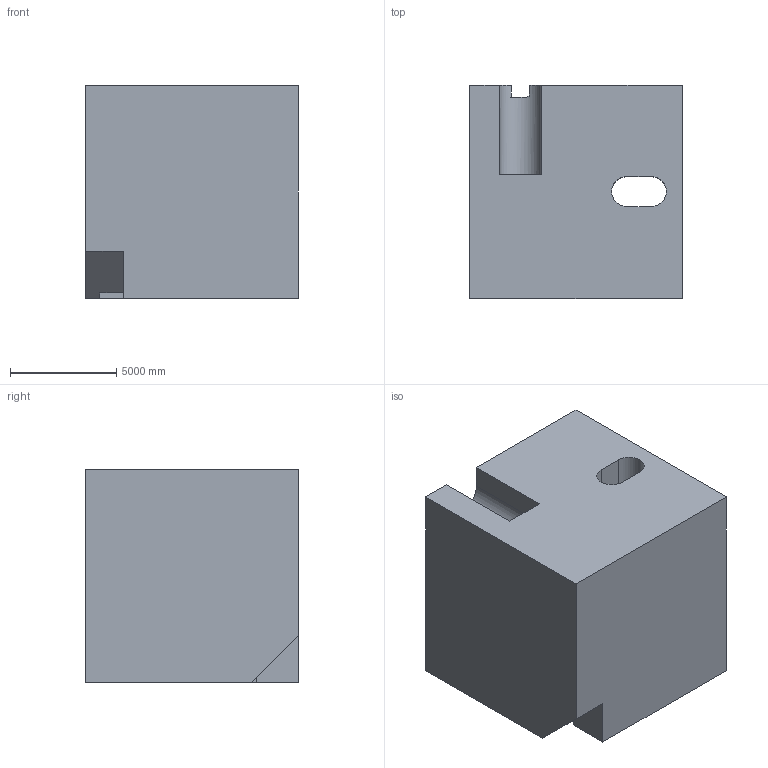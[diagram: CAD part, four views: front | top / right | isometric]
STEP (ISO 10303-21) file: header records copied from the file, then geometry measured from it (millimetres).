
FILE_DESCRIPTION (( 'STEP AP203' ), '1' );
FILE_NAME ('1701.STEP', '2022-08-19T11:51:40', ( 'user' ), ( '' ), 'SwSTEP 2.0', 'SolidWorks 2021', '' );
FILE_SCHEMA (( 'CONFIG_CONTROL_DESIGN' ));
Length unit declared in the file: centimetre
Products named in the file (1): 1701
Bounding box: 10000 x 10000 x 10000 mm (x, y, z)
Volume: 894510566140 mm3; surface area: 790383771.2 mm2
Topology: 1 solids, 1 shells, 46 faces, 123 edges, 82 vertices
Faces by surface type: plane 28, cylinder 18
Entity records: 1777 total; most frequent: CARTESIAN_POINT 512, DIRECTION 250, ORIENTED_EDGE 246, EDGE_CURVE 123, AXIS2_PLACEMENT_3D 84, VECTOR 82, VERTEX_POINT 82, LINE 82
